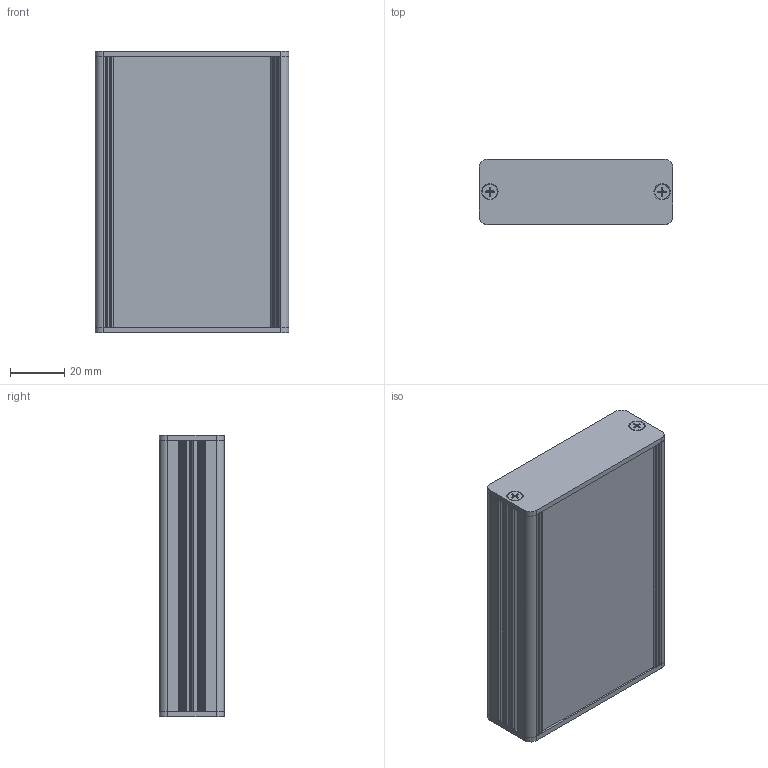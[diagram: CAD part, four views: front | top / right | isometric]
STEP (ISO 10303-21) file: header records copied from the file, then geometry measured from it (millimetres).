
FILE_DESCRIPTION((''),'2;1');
FILE_NAME('C:\Dokumente und Einstellungen\Lochen\Desktop\AKG\AKG_71_24_100.stp','2015-01-15T13:53:04',('Lochen'),(''),'Autodesk Inventor 2012','Autodesk Inventor 2012','');
FILE_SCHEMA(('AUTOMOTIVE_DESIGN { 1 0 10303 214 1 1 1 1 }'));
Length unit declared in the file: millimetre
Products named in the file (4): 001037224; 001032109; 001009915; DIN EN ISO 7046-1 H M3 x 10 - 4.8 - H
Assembly tree (8 placements, depth 2):
  001037224
    001032109  x2
    001009915  x2
    DIN EN ISO 7046-1 H M3 x 10 - 4.8 - H  x4
Bounding box: 71.51 x 24.04 x 104 mm (x, y, z)
Volume: 38862.9 mm3; surface area: 51202.4 mm2
Topology: 8 solids, 8 shells, 372 faces, 1040 edges, 684 vertices
Faces by surface type: plane 154, cylinder 146, cone 52, torus 20
Full cylindrical faces by diameter (mm): 2.693 x4, 3 x4, 3.2 x4, 5.5 x4
Entity records: 5267 total; most frequent: CARTESIAN_POINT 1010, DIRECTION 904, ORIENTED_EDGE 856, EDGE_CURVE 428, AXIS2_PLACEMENT_3D 328, VERTEX_POINT 290, VECTOR 248, LINE 248
